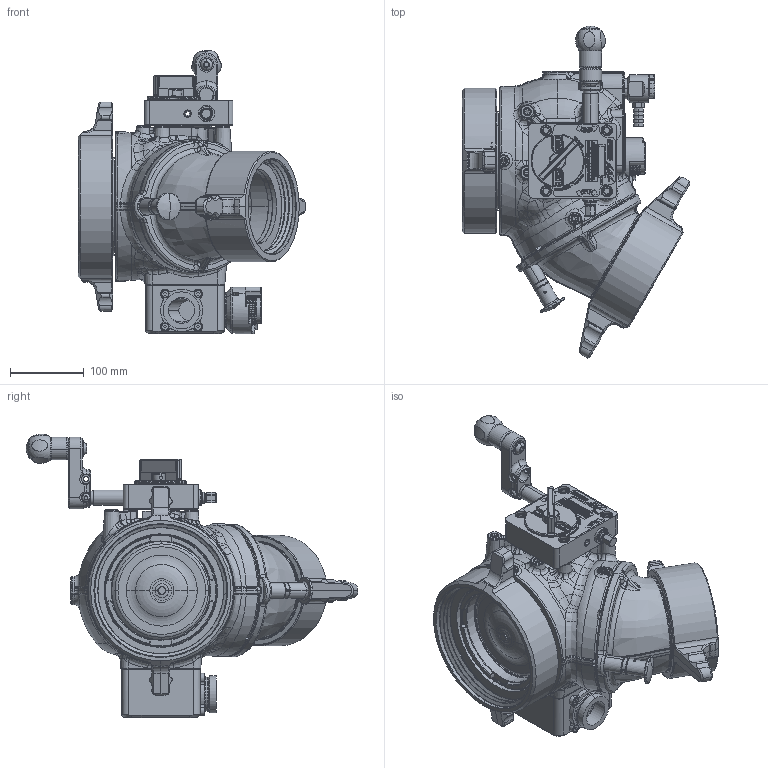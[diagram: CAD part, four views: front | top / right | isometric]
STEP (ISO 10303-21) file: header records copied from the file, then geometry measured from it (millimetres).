
FILE_DESCRIPTION (( 'STEP AP214' ), '1' );
FILE_NAME ('AXD_ASSEMBLY.SLDASM_AXD7HNP-NX-T Angled Position.step', '2014-09-12T20:56:59', ( '' ), ( '' ), 'SwSTEP 2.0', 'SolidWorks 2014', '' );
FILE_SCHEMA (( 'AUTOMOTIVE_DESIGN' ));
Length unit declared in the file: inch
Products named in the file (1): AXD_ASSEMBLY.SLDASM_AXD7HNP-NX-T Angled Position
Bounding box: 309.13 x 449.9 x 384.51 mm (x, y, z)
Surface area: 662642.5 mm2 (no closed solid volume)
Topology: 0 solids, 324 shells, 2609 faces, 17088 edges, 14618 vertices
Faces by surface type: plane 922, cylinder 583, bspline 430, cone 387, torus 265, sphere 22
Entity records: 266280 total; most frequent: CARTESIAN_POINT 116332, ORIENTED_EDGE 22150, DIRECTION 19155, EDGE_CURVE 17073, VERTEX_POINT 14616, LINE 9457, VECTOR 9457, AXIS2_PLACEMENT_3D 4849
